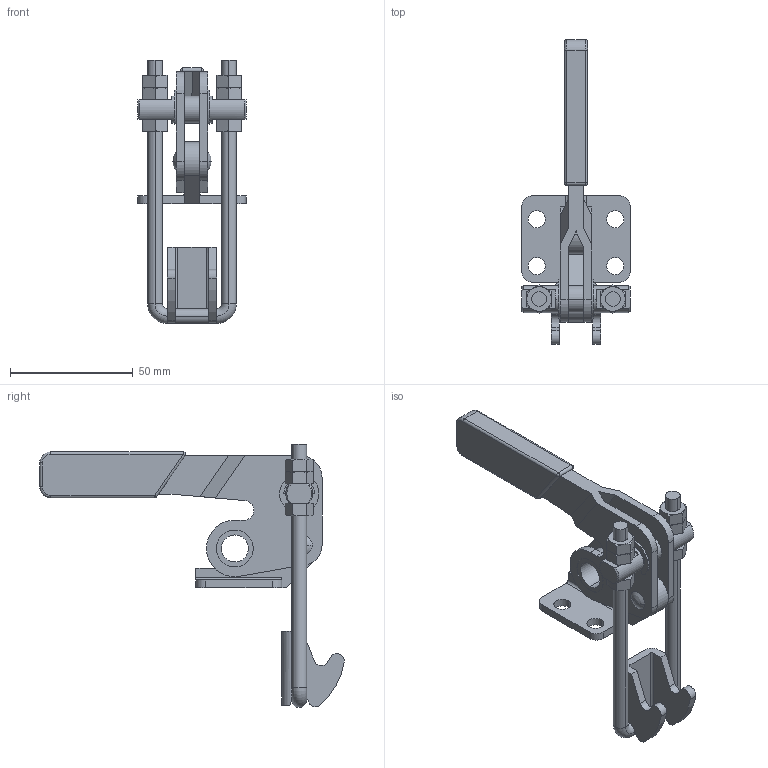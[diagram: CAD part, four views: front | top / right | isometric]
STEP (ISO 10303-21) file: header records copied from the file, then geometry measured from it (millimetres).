
FILE_DESCRIPTION(('CATIA V5 STEP Exchange'),'2;1');
FILE_NAME('D:\Model\toggle\toggle_standard\KJF_032_43F.stp','2005-06-24T03:18:38+00:00',('none'),('none'),'CATIA Version 5 Release 11 (IN-9)','CATIA V5 STEP AP203',' none');
FILE_SCHEMA(('CONFIG_CONTROL_DESIGN'));
Length unit declared in the file: millimetre
Products named in the file (1): Part1
Bounding box: 44 x 123.8 x 107 mm (x, y, z)
Volume: 47322.2 mm3; surface area: 31409.1 mm2
Topology: 16 solids, 16 shells, 332 faces, 856 edges, 556 vertices
Faces by surface type: plane 141, cylinder 135, cone 40, bspline 8, torus 4, sphere 4
Entity records: 10501 total; most frequent: CARTESIAN_POINT 3098, ORIENTED_EDGE 1696, DIRECTION 1140, EDGE_CURVE 848, VERTEX_POINT 556, AXIS2_PLACEMENT_3D 550, EDGE_LOOP 378, VECTOR 356
